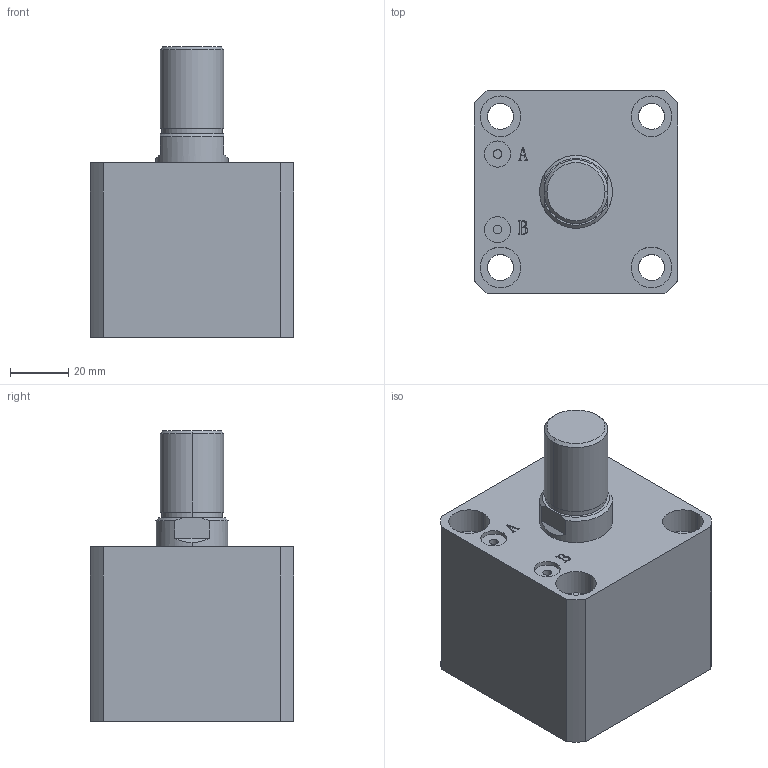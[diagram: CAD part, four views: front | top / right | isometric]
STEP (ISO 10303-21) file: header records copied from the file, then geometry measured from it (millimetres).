
FILE_DESCRIPTION (( 'STEP AP203' ), '1' );
FILE_NAME ('HTB-SDMA40-5W.STEP', '2019-10-07T11:49:48', ( '微软用户' ), ( '微软中国' ), 'SwSTEP 2.0', 'SolidWorks 2012', '' );
FILE_SCHEMA (( 'CONFIG_CONTROL_DESIGN' ));
Length unit declared in the file: millimetre
Products named in the file (3): HTB-SDMA40-5W; HTB-SDMA40-5W活塞杆; HTB-SDMA40-5掛极
Assembly tree (2 placements, depth 2):
  HTB-SDMA40-5W
    HTB-SDMA40-5掛极
    HTB-SDMA40-5W活塞杆
Bounding box: 70 x 70 x 100 mm (x, y, z)
Volume: 281727 mm3; surface area: 50365.7 mm2
Topology: 2 solids, 2 shells, 141 faces, 337 edges, 222 vertices
Faces by surface type: plane 67, cylinder 48, bspline 16, torus 6, cone 4
Entity records: 5180 total; most frequent: CARTESIAN_POINT 1597, ORIENTED_EDGE 674, DIRECTION 669, EDGE_CURVE 337, AXIS2_PLACEMENT_3D 242, VERTEX_POINT 222, VECTOR 185, LINE 185
